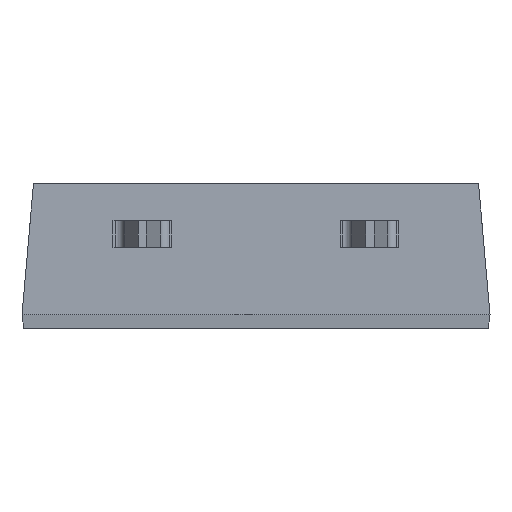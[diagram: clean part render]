
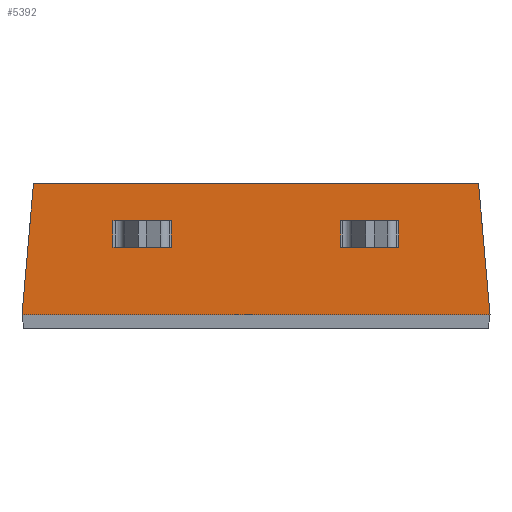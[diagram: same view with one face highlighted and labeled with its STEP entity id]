
A CAD part, front view. The second image highlights one B-rep face of the part: STEP entity #5392.
In plain terms, the highlighted planar face has unit normal (0, -1, 0).
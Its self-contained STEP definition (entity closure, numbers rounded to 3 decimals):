
#169=LINE('',#7101,#590);
#233=LINE('',#7860,#654);
#239=LINE('',#7872,#660);
#240=LINE('',#7874,#661);
#241=LINE('',#7877,#662);
#242=LINE('',#7879,#663);
#243=LINE('',#7881,#664);
#244=LINE('',#7882,#665);
#245=LINE('',#7885,#666);
#246=LINE('',#7887,#667);
#247=LINE('',#7889,#668);
#248=LINE('',#7890,#669);
#590=VECTOR('',#5995,1000.);
#654=VECTOR('',#6105,1000.);
#660=VECTOR('',#6115,1000.);
#661=VECTOR('',#6118,1000.);
#662=VECTOR('',#6119,1000.);
#663=VECTOR('',#6120,1000.);
#664=VECTOR('',#6121,1000.);
#665=VECTOR('',#6122,1000.);
#666=VECTOR('',#6123,1000.);
#667=VECTOR('',#6124,1000.);
#668=VECTOR('',#6125,1000.);
#669=VECTOR('',#6126,1000.);
#955=PLANE('',#5628);
#1539=ORIENTED_EDGE('',*,*,#2456,.F.);
#1540=ORIENTED_EDGE('',*,*,#2457,.F.);
#1541=ORIENTED_EDGE('',*,*,#2458,.F.);
#1542=ORIENTED_EDGE('',*,*,#2459,.T.);
#1543=ORIENTED_EDGE('',*,*,#2460,.F.);
#1544=ORIENTED_EDGE('',*,*,#2461,.F.);
#1545=ORIENTED_EDGE('',*,*,#2462,.F.);
#1546=ORIENTED_EDGE('',*,*,#2463,.T.);
#1547=ORIENTED_EDGE('',*,*,#2449,.T.);
#1548=ORIENTED_EDGE('',*,*,#2357,.T.);
#1549=ORIENTED_EDGE('',*,*,#2455,.F.);
#1550=ORIENTED_EDGE('',*,*,#2464,.F.);
#2357=EDGE_CURVE('',#2861,#2860,#169,.T.);
#2449=EDGE_CURVE('',#2926,#2861,#233,.T.);
#2455=EDGE_CURVE('',#2929,#2860,#239,.T.);
#2456=EDGE_CURVE('',#2930,#2931,#240,.T.);
#2457=EDGE_CURVE('',#2932,#2930,#241,.T.);
#2458=EDGE_CURVE('',#2933,#2932,#242,.T.);
#2459=EDGE_CURVE('',#2933,#2931,#243,.T.);
#2460=EDGE_CURVE('',#2934,#2935,#244,.T.);
#2461=EDGE_CURVE('',#2936,#2934,#245,.T.);
#2462=EDGE_CURVE('',#2937,#2936,#246,.T.);
#2463=EDGE_CURVE('',#2937,#2935,#247,.T.);
#2464=EDGE_CURVE('',#2926,#2929,#248,.T.);
#2860=VERTEX_POINT('',#7100);
#2861=VERTEX_POINT('',#7102);
#2926=VERTEX_POINT('',#7861);
#2929=VERTEX_POINT('',#7871);
#2930=VERTEX_POINT('',#7875);
#2931=VERTEX_POINT('',#7876);
#2932=VERTEX_POINT('',#7878);
#2933=VERTEX_POINT('',#7880);
#2934=VERTEX_POINT('',#7883);
#2935=VERTEX_POINT('',#7884);
#2936=VERTEX_POINT('',#7886);
#2937=VERTEX_POINT('',#7888);
#3249=EDGE_LOOP('',(#1539,#1540,#1541,#1542));
#3250=EDGE_LOOP('',(#1543,#1544,#1545,#1546));
#3251=EDGE_LOOP('',(#1547,#1548,#1549,#1550));
#3540=FACE_BOUND('',#3249,.T.);
#3541=FACE_BOUND('',#3250,.T.);
#3542=FACE_BOUND('',#3251,.T.);
#5392=ADVANCED_FACE('',(#3540,#3541,#3542),#955,.F.);
#5628=AXIS2_PLACEMENT_3D('',#7873,#6116,#6117);
#5995=DIRECTION('',(-1.,0.,0.));
#6105=DIRECTION('',(-0.087,0.,0.996));
#6115=DIRECTION('',(0.087,0.,0.996));
#6116=DIRECTION('',(0.,1.,0.));
#6117=DIRECTION('',(0.,0.,1.));
#6118=DIRECTION('',(1.,0.,0.));
#6119=DIRECTION('',(0.,0.,-1.));
#6120=DIRECTION('',(-1.,0.,0.));
#6121=DIRECTION('',(0.,0.,-1.));
#6122=DIRECTION('',(-1.,0.,0.));
#6123=DIRECTION('',(0.,0.,1.));
#6124=DIRECTION('',(1.,0.,0.));
#6125=DIRECTION('',(0.,0.,1.));
#6126=DIRECTION('',(-1.,0.,0.));
#7100=CARTESIAN_POINT('',(89.885,-14.737,43.472));
#7101=CARTESIAN_POINT('',(100.07,-14.737,43.472));
#7102=CARTESIAN_POINT('',(99.815,-14.737,43.472));
#7860=CARTESIAN_POINT('',(100.07,-14.737,40.552));
#7861=CARTESIAN_POINT('',(100.07,-14.737,40.552));
#7871=CARTESIAN_POINT('',(89.63,-14.737,40.552));
#7872=CARTESIAN_POINT('',(89.63,-14.737,40.552));
#7873=CARTESIAN_POINT('',(100.07,-14.737,40.552));
#7874=CARTESIAN_POINT('',(-102.,-14.737,42.053));
#7875=CARTESIAN_POINT('',(91.66,-14.737,42.053));
#7876=CARTESIAN_POINT('',(92.96,-14.737,42.053));
#7877=CARTESIAN_POINT('',(91.66,-14.737,247.303));
#7878=CARTESIAN_POINT('',(91.66,-14.737,42.653));
#7879=CARTESIAN_POINT('',(-102.,-14.737,42.653));
#7880=CARTESIAN_POINT('',(92.96,-14.737,42.653));
#7881=CARTESIAN_POINT('',(92.96,-14.737,247.303));
#7882=CARTESIAN_POINT('',(-102.,-14.737,42.653));
#7883=CARTESIAN_POINT('',(98.04,-14.737,42.653));
#7884=CARTESIAN_POINT('',(96.74,-14.737,42.653));
#7885=CARTESIAN_POINT('',(98.04,-14.737,250.432));
#7886=CARTESIAN_POINT('',(98.04,-14.737,42.053));
#7887=CARTESIAN_POINT('',(-102.,-14.737,42.053));
#7888=CARTESIAN_POINT('',(96.74,-14.737,42.053));
#7889=CARTESIAN_POINT('',(96.74,-14.737,247.303));
#7890=CARTESIAN_POINT('',(100.07,-14.737,40.552));
